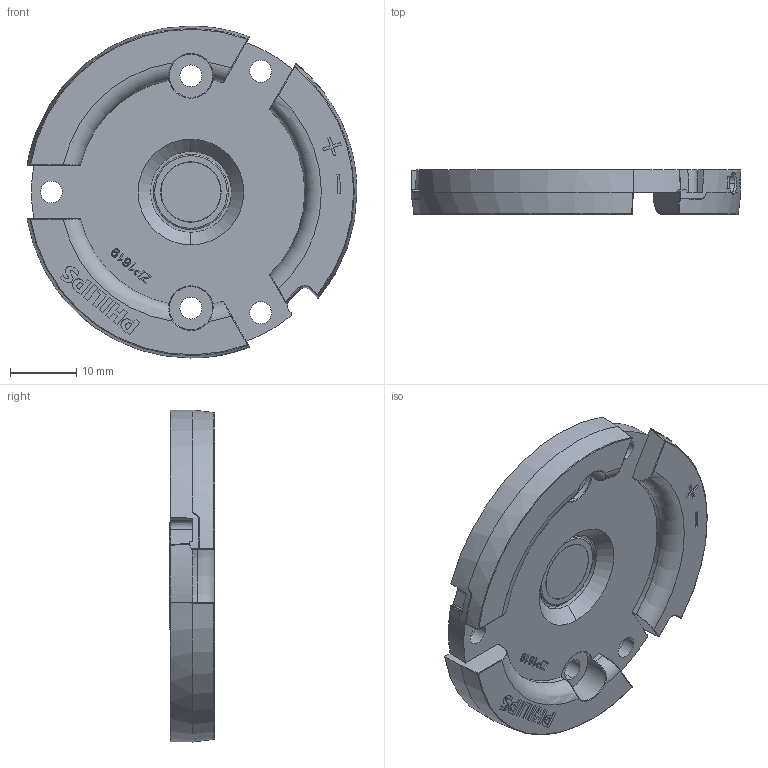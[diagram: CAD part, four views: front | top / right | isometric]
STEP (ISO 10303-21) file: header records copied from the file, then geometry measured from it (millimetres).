
FILE_DESCRIPTION(/* description */ (''),/* implementation_level */ '2;1');
FILE_NAME(/* name */ '1619_0701.stp',/* time_stamp */ '2016-07-01T13:51:02+08:00',/* author */ (''),/* organization */ (''),/* preprocessor_version */ 'ST-DEVELOPER v11',/* originating_system */ 'SIEMENS PLM Software NX 7.5',/* authorisation */ '');
FILE_SCHEMA (('CONFIG_CONTROL_DESIGN'));
Length unit declared in the file: millimetre
Products named in the file (1): 31007DA0m85o
Bounding box: 49.67 x 6.8 x 50 mm (x, y, z)
Volume: 8299.2 mm3; surface area: 6024.1 mm2
Topology: 2 solids, 2 shells, 752 faces, 2126 edges, 1408 vertices
Faces by surface type: plane 491, cylinder 114, extrusion 75, bspline 27, torus 19, cone 16, sphere 10
Full cylindrical faces by diameter (mm): 2 x1, 6.55 x1, 9 x1, 9.1 x1, 11.3 x1
Entity records: 29480 total; most frequent: CARTESIAN_POINT 10398, ORIENTED_EDGE 4228, DIRECTION 3453, EDGE_CURVE 2114, VECTOR 1515, LINE 1440, VERTEX_POINT 1408, AXIS2_PLACEMENT_3D 969
